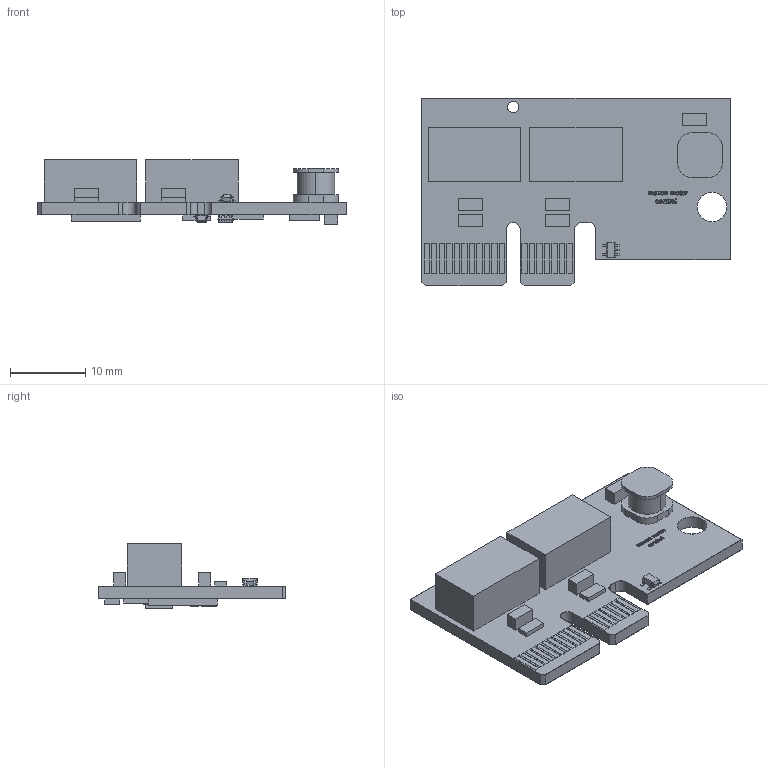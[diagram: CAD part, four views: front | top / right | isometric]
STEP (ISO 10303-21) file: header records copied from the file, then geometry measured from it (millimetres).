
FILE_DESCRIPTION((''),'2;1');
FILE_NAME('ETHERCAT_CARD_581245_ASM','2017-10-17T',('mmagrari'),(''),'CREO PARAMETRIC BY PTC INC, 2017020','CREO PARAMETRIC BY PTC INC, 2017020','');
FILE_SCHEMA(('CONFIG_CONTROL_DESIGN'));
Length unit declared in the file: millimetre
Products named in the file (16): PCB_ETHERCAT_CARD; S558-5999-U7-F; INDUCTOR_6045; LAN9252; SS19L; PCB-ETHERCAT_CARD_TOP; PCB-ETHERCAT_CARD_BOTTOM; USER_LIBRARY-SOT353; 1206_R; 1206_C; UFQFPN32; TDFN-8; SW3DPS-SW3DPS-SOT363; ASTMHTD; LLP8; ETHERCAT_CARD_581245_ASM
Assembly tree (20 placements, depth 2):
  ETHERCAT_CARD_581245_ASM
    PCB_ETHERCAT_CARD
    S558-5999-U7-F  x2
    INDUCTOR_6045
    LAN9252
    SS19L
    PCB-ETHERCAT_CARD_TOP
    PCB-ETHERCAT_CARD_BOTTOM
    USER_LIBRARY-SOT353  x2
    1206_R  x2
    1206_C  x3
    UFQFPN32
    TDFN-8
    SW3DPS-SW3DPS-SOT363
    ASTMHTD
    LLP8
Bounding box: 41 x 25 x 8.65 mm (x, y, z)
Volume: 2822.1 mm3; surface area: 7060.6 mm2
Topology: 35 solids, 45 shells, 1383 faces, 3889 edges, 2576 vertices
Faces by surface type: plane 757, extrusion 483, cylinder 127, sphere 14, cone 2
Entity records: 55053 total; most frequent: CARTESIAN_POINT 11311, ORIENTED_EDGE 7136, DIRECTION 4983, PRESENTATION_STYLE_ASSIGNMENT 3732, STYLED_ITEM 3642, CURVE_STYLE 3602, EDGE_CURVE 3602, VECTOR 2885
